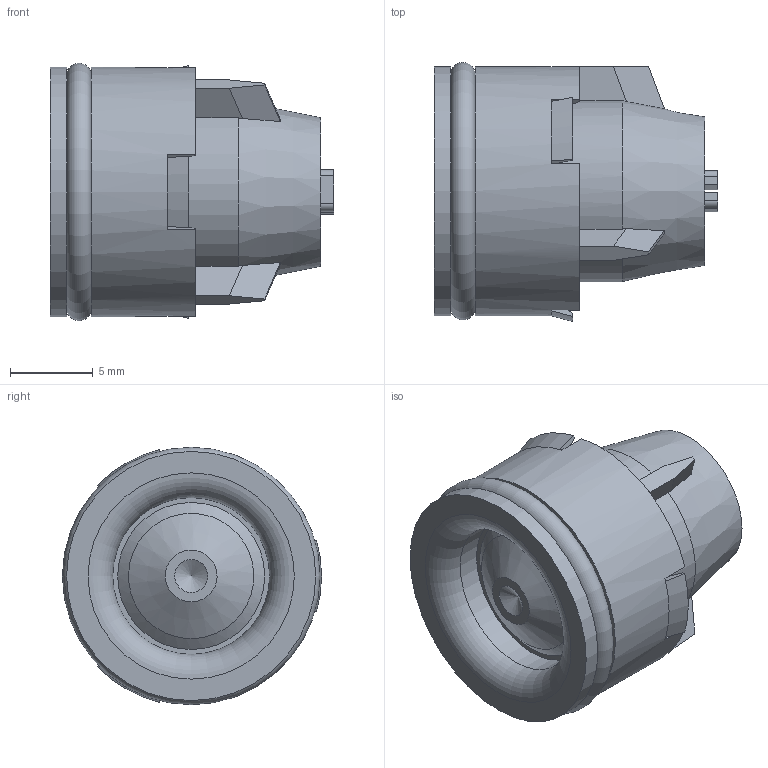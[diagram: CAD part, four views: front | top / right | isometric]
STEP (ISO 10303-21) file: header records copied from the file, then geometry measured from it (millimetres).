
FILE_DESCRIPTION((''),'2;1');
FILE_NAME('C:\Users\duckj\Desktop\02082017_003.stp','2017-08-02T09:30:02',('duckj'),(''),'Autodesk Inventor 2013','Autodesk Inventor 2013','');
FILE_SCHEMA(('CONFIG_CONTROL_DESIGN'));
Length unit declared in the file: millimetre
Products named in the file (1): 02082017_003
Bounding box: 17.21 x 15.7 x 15.6 mm (x, y, z)
Volume: 1964.2 mm3; surface area: 1509.7 mm2
Topology: 1 solids, 2 shells, 96 faces, 243 edges, 155 vertices
Faces by surface type: plane 66, cylinder 13, cone 12, torus 4, bspline 1
Full cylindrical faces by diameter (mm): 2 x1, 9.5 x1, 13.4 x2, 15.1 x2
Entity records: 2908 total; most frequent: CARTESIAN_POINT 533, DIRECTION 477, ORIENTED_EDGE 442, EDGE_CURVE 221, AXIS2_PLACEMENT_3D 172, VERTEX_POINT 147, VECTOR 133, LINE 133
